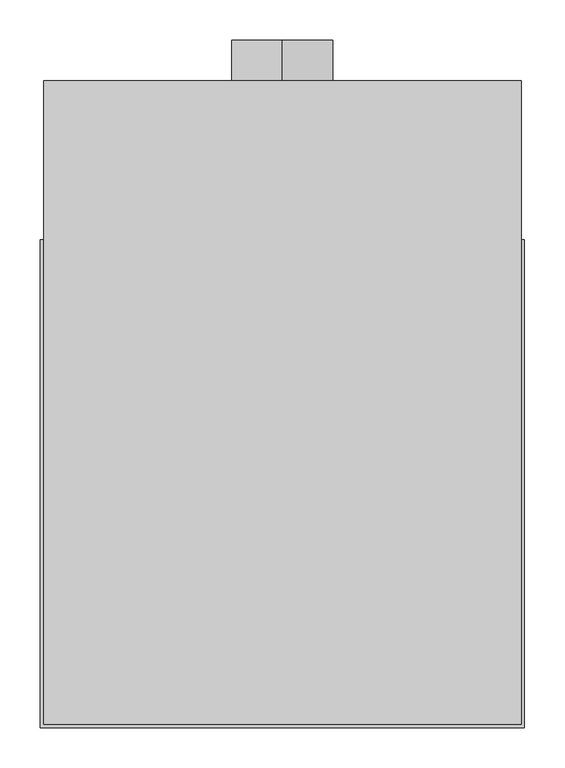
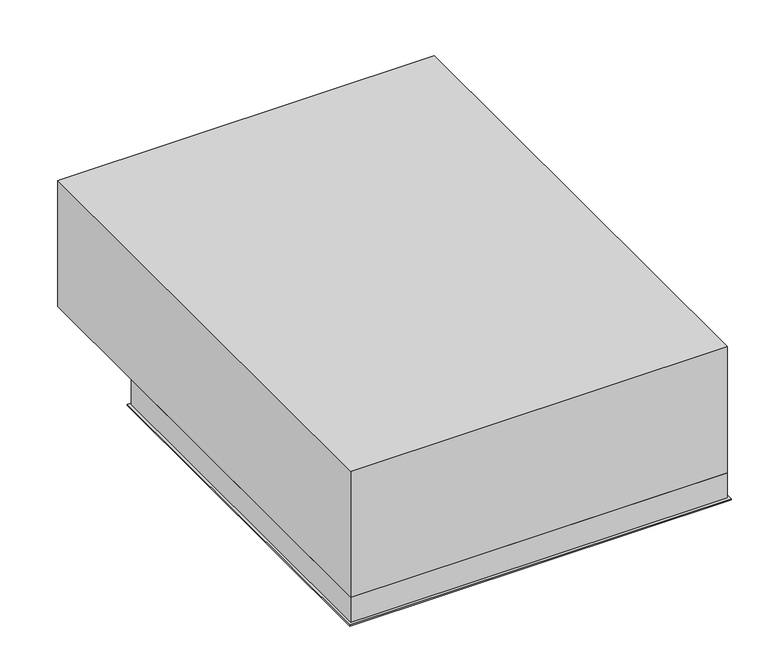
"""IFC4 building model written with IfcOpenShell, lengths in millimetres: air terminal geometry, EOL - plafonnier - SHORT : EOL-P4-125-600x600-SHORT."""

from ifc_helpers import new_model, si_unit, point, frame, frame_2d, origin, origin_with_axes, place, context, project, spatial, polyline, circle_curve, ellipse_curve, trimmed, segment, composite_curve, outline, extrude, source, transform, mapped, element, save
from ifc_brep_helpers import plane_surface, cylinder_surface, revolved_surface, advanced_brep


def air_terminal_6cdbe9a3(model_context):
    return source(origin(), model_context, "Body", "SolidModel", [
        advanced_brep(
        [(42.3125856, 336.1251712, 26.7), (70.0, 363.8125856, 1.0), (70.0, 221.1874144, 1.0), (42.3125856, 248.8748288, 26.7), (42.3125856, 336.1251712, 35.0), (42.3125856, 248.8748288, 35.0), (43.3125856, 337.1251712, 26.77286), (43.3125856, 337.1251712, 35.0), (43.3125856, 247.8748288, 35.0), (43.3125856, 247.8748288, 26.77286), (70.0, 363.8125856, 2.0025269), (70.0, 221.1874144, 2.0025269), (-70.0, 221.1874144, 1.0), (-42.3125856, 248.8748288, 26.7), (-42.3125856, 248.8748288, 35.0), (-43.3125856, 247.8748288, 35.0), (-43.3125856, 247.8748288, 26.77286), (-70.0, 221.1874144, 2.0025269), (-70.0, 363.8125856, 1.0), (-42.3125856, 336.1251712, 26.7), (-42.3125856, 336.1251712, 35.0), (-43.3125856, 337.1251712, 35.0), (-43.3125856, 337.1251712, 26.77286), (-70.0, 363.8125856, 2.0025269)],
        [
            (0, 1, ellipse_curve(frame((72.1, 365.9125856, 31.0266548), z_axis=(0.7071067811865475, -0.7071067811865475, 0.0), x_axis=(0.7071067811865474, 0.7071067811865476, 0.0)), 42.5678282, 30.1)),
            (1, 2),
            (2, 3, ellipse_curve(frame((72.1, 219.0874144, 31.0266548), z_axis=(0.7071067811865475, 0.7071067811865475, 0.0), x_axis=(-0.7071067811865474, 0.7071067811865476, 0.0)), 42.5678282, 30.1)),
            (3, 0),
            (4, 0),
            (3, 5),
            (5, 4),
            (6, 7),
            (7, 8),
            (8, 9),
            (9, 6),
            (10, 6, ellipse_curve(frame((72.1, 365.9125856, 31.0266548), z_axis=(-0.7071067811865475, 0.7071067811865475, 0.0), x_axis=(-0.7071067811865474, -0.7071067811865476, 0.0)), 41.1536147, 29.1)),
            (9, 11, ellipse_curve(frame((72.1, 219.0874144, 31.0266548), z_axis=(-0.7071067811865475, -0.7071067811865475, 0.0), x_axis=(0.7071067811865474, -0.7071067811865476, 0.0)), 41.1536147, 29.1)),
            (11, 10),
            (1, 10),
            (11, 2),
            (2, 12),
            (12, 13, ellipse_curve(frame((-72.1, 219.0874144, 31.0266548), z_axis=(0.7071067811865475, -0.7071067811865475, 0.0), x_axis=(0.7071067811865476, 0.7071067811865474, 0.0)), 42.5678282, 30.1)),
            (13, 3),
            (13, 14),
            (14, 5),
            (8, 15),
            (15, 16),
            (16, 9),
            (16, 17, ellipse_curve(frame((-72.1, 219.0874144, 31.0266548), z_axis=(-0.7071067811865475, 0.7071067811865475, 0.0), x_axis=(-0.7071067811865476, -0.7071067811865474, 0.0)), 41.1536147, 29.1)),
            (17, 11),
            (17, 12),
            (12, 18),
            (18, 19, ellipse_curve(frame((-72.1, 365.9125856, 31.0266548), z_axis=(-0.7071067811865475, -0.7071067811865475, 0.0), x_axis=(0.7071067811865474, -0.7071067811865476, 0.0)), 42.5678282, 30.1)),
            (19, 13),
            (19, 20),
            (20, 14),
            (15, 21),
            (21, 22),
            (22, 16),
            (22, 23, ellipse_curve(frame((-72.1, 365.9125856, 31.0266548), z_axis=(0.7071067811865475, 0.7071067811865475, 0.0), x_axis=(-0.7071067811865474, 0.7071067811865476, 0.0)), 41.1536147, 29.1)),
            (23, 17),
            (23, 18),
            (18, 1),
            (0, 19),
            (4, 20),
            (7, 21),
            (6, 22),
            (10, 23),
        ],
        [
            cylinder_surface(frame((72.1, 335.8125856, 31.0266548), z_axis=(0.0, 1.0, 0.0), x_axis=(1.0, 0.0, 0.0)), 30.1),
            plane_surface(frame((42.3125856, 336.1251712, 26.7), z_axis=(-1.0, 0.0, 0.0), x_axis=(0.0, -1.0, 0.0))),
            plane_surface(frame((43.3125856, 337.1251712, 35.0), z_axis=(1.0, 0.0, 0.0), x_axis=(0.0, -1.0, 0.0))),
            revolved_surface(polyline([(101.19999999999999, 189.98741437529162, 31.0266548), (101.19999999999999, 395.0125856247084, 31.0266548)]), (72.1, 335.8125856, 31.0266548), (0.0, -1.0, 0.0)),
            plane_surface(frame((70.0, 363.8125856, 2.0025269), z_axis=(1.0, 0.0, 0.0), x_axis=(0.0, -1.0, 0.0))),
            cylinder_surface(frame((42.0, 219.0874144, 31.0266548), z_axis=(1.0, 0.0, 0.0), x_axis=(0.0, -1.0, 0.0)), 30.1),
            plane_surface(frame((42.3125856, 248.8748288, 26.7), z_axis=(0.0, 1.0, 0.0), x_axis=(-1.0, 0.0, 0.0))),
            plane_surface(frame((43.3125856, 247.8748288, 35.0), z_axis=(0.0, -1.0, 0.0), x_axis=(-1.0, 0.0, 0.0))),
            revolved_surface(polyline([(-101.20000002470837, 189.9874144, 31.0266548), (101.20000002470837, 189.9874144, 31.0266548)]), (42.0, 219.0874144, 31.0266548), (-1.0, 0.0, 0.0)),
            plane_surface(frame((70.0, 221.1874144, 2.0025269), z_axis=(0.0, -1.0, 0.0), x_axis=(-1.0, 0.0, 0.0))),
            cylinder_surface(frame((-72.1, 249.1874144, 31.0266548), z_axis=(0.0, -1.0, 0.0), x_axis=(-1.0, 0.0, 0.0)), 30.1),
            plane_surface(frame((-42.3125856, 248.8748288, 26.7), z_axis=(1.0, 0.0, 0.0), x_axis=(0.0, 1.0, 0.0))),
            plane_surface(frame((-43.3125856, 247.8748288, 35.0), z_axis=(-1.0, 0.0, 0.0), x_axis=(0.0, 1.0, 0.0))),
            revolved_surface(polyline([(-101.19999999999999, 395.0125856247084, 31.0266548), (-101.19999999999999, 189.98741437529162, 31.0266548)]), (-72.1, 249.1874144, 31.0266548), (0.0, 1.0, 0.0)),
            plane_surface(frame((-70.0, 221.1874144, 2.0025269), z_axis=(-1.0, 0.0, 0.0), x_axis=(0.0, 1.0, 0.0))),
            cylinder_surface(frame((-42.0, 365.9125856, 31.0266548), z_axis=(-1.0, 0.0, 0.0), x_axis=(0.0, 1.0, 0.0)), 30.1),
            plane_surface(frame((-42.3125856, 336.1251712, 26.7), z_axis=(0.0, -1.0, 0.0), x_axis=(1.0, 0.0, 0.0))),
            plane_surface(frame((-42.3125856, 336.1251712, 35.0), z_axis=(0.0, 0.0, 1.0), x_axis=(1.0, 0.0, 0.0))),
            plane_surface(frame((-43.3125856, 337.1251712, 35.0), z_axis=(0.0, 1.0, 0.0), x_axis=(1.0, 0.0, 0.0))),
            revolved_surface(polyline([(101.20000002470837, 395.0125856, 31.0266548), (-101.20000002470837, 395.0125856, 31.0266548)]), (-42.0, 365.9125856, 31.0266548), (1.0, 0.0, 0.0)),
            plane_surface(frame((-70.0, 363.8125856, 2.0025269), z_axis=(0.0, 1.0, 0.0), x_axis=(1.0, 0.0, 0.0))),
        ],
        [
            (0, [[1, 2, 3, 4]]),
            (1, [[5, -4, 6, 7]]),
            (2, [[8, 9, 10, 11]]),
            (3, [[12, -11, 13, 14]]),
            (4, [[15, -14, 16, -2]]),
            (5, [[-3, 17, 18, 19]]),
            (6, [[-6, -19, 20, 21]]),
            (7, [[-10, 22, 23, 24]]),
            (8, [[-13, -24, 25, 26]]),
            (9, [[-16, -26, 27, -17]]),
            (10, [[-18, 28, 29, 30]]),
            (11, [[-20, -30, 31, 32]]),
            (12, [[-23, 33, 34, 35]]),
            (13, [[-25, -35, 36, 37]]),
            (14, [[-27, -37, 38, -28]]),
            (15, [[-29, 39, -1, 40]]),
            (16, [[-31, -40, -5, 41]]),
            (17, [[42, -33, -22, -9], [-21, -32, -41, -7]]),
            (18, [[-34, -42, -8, 43]]),
            (19, [[-36, -43, -12, 44]]),
            (20, [[-38, -44, -15, -39]]),
        ],
    ),
        advanced_brep(
        [(295.0, 790.0, 251.0), (-295.0, 790.0, 251.0), (-295.0, -5.0, 251.0), (295.0, -5.0, 251.0), (295.0, 790.0, 42.0), (295.0, -5.0, 42.0), (-295.0, -5.0, 42.0), (-295.0, 790.0, 42.0), (290.0, 585.0, 42.0), (-290.0, 585.0, 42.0), (-290.0, 0.0, 42.0), (290.0, 0.0, 42.0), (-61.5, 790.0, 141.0), (61.5, 790.0, 141.0), (290.0, 785.0, 246.0), (290.0, 785.0, 47.0), (290.0, 585.0, 47.0), (290.0, 0.0, 246.0), (-290.0, 0.0, 246.0), (-290.0, 585.0, 47.0), (-290.0, 785.0, 47.0), (-290.0, 785.0, 246.0), (61.5, 785.0, 141.0), (-61.5, 785.0, 141.0)],
        [
            (0, 1),
            (1, 2),
            (2, 3),
            (3, 0),
            (4, 5),
            (5, 6),
            (6, 7),
            (7, 4),
            (8, 9),
            (9, 10),
            (10, 11),
            (11, 8),
            (0, 4),
            (7, 1),
            (12, 13, circle_curve(frame((0.0, 790.0, 141.0), z_axis=(0.0, -1.0, 0.0), x_axis=(1.0, 0.0, 0.0)), 61.5)),
            (13, 12, circle_curve(frame((0.0, 790.0, 141.0), z_axis=(0.0, -1.0, 0.0), x_axis=(1.0, 0.0, 0.0)), 61.5)),
            (6, 2),
            (5, 3),
            (14, 15),
            (15, 16),
            (16, 8),
            (11, 17),
            (17, 14),
            (18, 10),
            (9, 19),
            (19, 20),
            (20, 21),
            (21, 18),
            (17, 18),
            (21, 14),
            (15, 20),
            (19, 16),
            (22, 23, circle_curve(frame((0.0, 785.0, 141.0), z_axis=(0.0, 1.0, 0.0), x_axis=(1.0, 0.0, 0.0)), 61.5)),
            (23, 22, circle_curve(frame((0.0, 785.0, 141.0), z_axis=(0.0, 1.0, 0.0), x_axis=(1.0, 0.0, 0.0)), 61.5)),
            (12, 23),
            (22, 13),
        ],
        [
            plane_surface(frame((-295.0, 790.0, 251.0), z_axis=(0.0, 0.0, 1.0), x_axis=(-1.0, 0.0, 0.0))),
            plane_surface(frame((-295.0, 790.0, 42.0), z_axis=(0.0, 0.0, -1.0), x_axis=(1.0, 0.0, 0.0))),
            plane_surface(frame((295.0, 790.0, 251.0), z_axis=(0.0, 1.0, 0.0), x_axis=(0.0, 0.0, -1.0))),
            plane_surface(frame((-295.0, 790.0, 251.0), z_axis=(-1.0, 0.0, 0.0), x_axis=(0.0, 0.0, -1.0))),
            plane_surface(frame((-295.0, -5.0, 251.0), z_axis=(0.0, -1.0, 0.0), x_axis=(0.0, 0.0, -1.0))),
            plane_surface(frame((295.0, -5.0, 251.0), z_axis=(1.0, 0.0, 0.0), x_axis=(0.0, 0.0, -1.0))),
            plane_surface(frame((290.0, 585.0, 246.0), z_axis=(-1.0, 0.0, 0.0), x_axis=(0.0, -1.0, 0.0))),
            plane_surface(frame((-290.0, 585.0, 246.0), z_axis=(1.0, 0.0, 0.0), x_axis=(0.0, 1.0, 0.0))),
            plane_surface(frame((290.0, 785.0, 246.0), z_axis=(0.0, 0.0, -1.0), x_axis=(-1.0, 0.0, 0.0))),
            plane_surface(frame((290.0, 585.0, 47.0), z_axis=(0.0, 0.0, 1.0), x_axis=(-1.0, 0.0, 0.0))),
            plane_surface(frame((290.0, 785.0, 47.0), z_axis=(0.0, -1.0, 0.0), x_axis=(-1.0, 0.0, 0.0))),
            revolved_surface(polyline([(61.5, 785.0, 141.0), (61.5, 790.0, 141.0)]), (0.0, 840.0, 141.0), (0.0, -1.0, 0.0)),
            plane_surface(frame((290.0, 585.0, 246.0), z_axis=(0.0, -1.0, 0.0), x_axis=(0.0, 0.0, -1.0))),
            plane_surface(frame((-290.0, 0.0, 246.0), z_axis=(0.0, 1.0, 0.0), x_axis=(0.0, 0.0, -1.0))),
        ],
        [
            (0, [[1, 2, 3, 4]]),
            (1, [[5, 6, 7, 8], [9, 10, 11, 12]]),
            (2, [[-1, 13, -8, 14], [15, 16]]),
            (3, [[-2, -14, -7, 17]]),
            (4, [[-3, -17, -6, 18]]),
            (5, [[-4, -18, -5, -13]]),
            (6, [[19, 20, 21, -12, 22, 23]]),
            (7, [[24, -10, 25, 26, 27, 28]]),
            (8, [[-23, 29, -28, 30]]),
            (9, [[-20, 31, -26, 32]]),
            (10, [[-19, -30, -27, -31], [33, 34]]),
            (11, [[35, -33, 36, -15]]),
            (11, [[-35, -16, -36, -34]]),
            (12, [[-21, -32, -25, -9]]),
            (13, [[-29, -22, -11, -24]]),
        ],
    ),
        extrude(outline(polyline([(299.0, 594.0), (299.0, -9.0), (-299.0, -9.0), (-299.0, 594.0), (299.0, 594.0)]), holes=[polyline([(290.0, 585.0), (-290.0, 585.0), (-290.0, 0.0), (290.0, 0.0), (290.0, 585.0)])]), frame((0.0, 0.0, -2.0), z_axis=(0.0, 0.0, 1.0), x_axis=(1.0, 0.0, 0.0)), (0.0, 0.0, 1.0), 2.0),
        extrude(outline(composite_curve([segment(trimmed(circle_curve(frame_2d((141.0, 0.0)), 62.5), [point((78.5, 0.0))], [point((203.5, 0.0))], False, "CARTESIAN"), True, "CONTINUOUS"), segment(trimmed(circle_curve(frame_2d((141.0, 0.0)), 62.5), [point((203.5, 0.0))], [point((78.5, 0.0))], False, "CARTESIAN"), True, "CONTINUOUS")], self_intersect=False), holes=[composite_curve([segment(trimmed(circle_curve(frame_2d((141.0, 0.0)), 61.5), [point((141.0, 61.5))], [point((141.0, -61.5))], True, "CARTESIAN"), True, "CONTINUOUS"), segment(trimmed(circle_curve(frame_2d((141.0, 0.0)), 61.5), [point((141.0, -61.5))], [point((141.0, 61.5))], True, "CARTESIAN"), True, "CONTINUOUS")], self_intersect=False)]), frame((0.0, 790.0, 0.0), z_axis=(0.0, 1.0, 0.0), x_axis=(0.0, 0.0, 1.0)), (0.0, 0.0, 1.0), 50.0),
        extrude(outline(polyline([(295.0, 590.0), (295.0, -5.0), (-295.0, -5.0), (-295.0, 590.0), (295.0, 590.0)]), holes=[polyline([(290.0, 585.0), (-290.0, 585.0), (-290.0, 0.0), (290.0, 0.0), (290.0, 585.0)])]), origin_with_axes(), (0.0, 0.0, 1.0), 42.0),
    ])


if __name__ == "__main__":
    model = new_model("IFC4")
    model_context = context("Model", 3, world=origin())
    ifc_project = project(units=[si_unit("LENGTHUNIT", "METRE", prefix="MILLI")], contexts=[model_context])
    site = spatial("IfcSite", under=ifc_project)
    building = spatial("IfcBuilding", under=site)
    placement = place(None, origin())
    air_terminal_shape = air_terminal_6cdbe9a3(model_context)
    element("IfcAirTerminal", 1, ObjectType="EOL - plafonnier - SHORT : EOL-P4-125-600x600-SHORT", at=placement, inside=building, context=model_context, shape_type="MappedRepresentation", body=[
        mapped(air_terminal_shape, transform((0.0, 0.0, 0.0), x_axis=(1.0, 0.0, 0.0), y_axis=(0.0, 1.0, 0.0), z_axis=(0.0, 0.0, 1.0))),
    ])
    save(model, "model.ifc")
